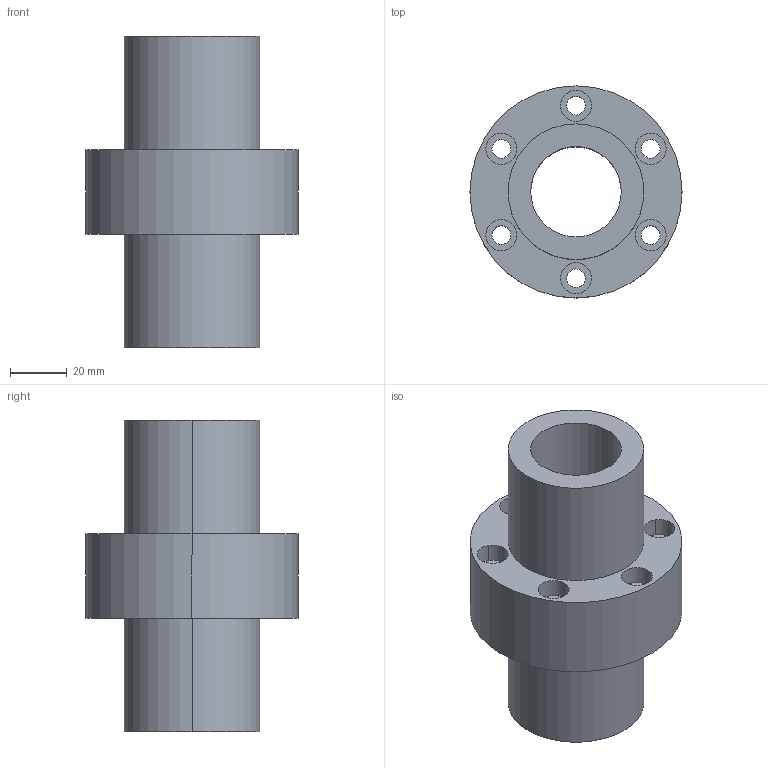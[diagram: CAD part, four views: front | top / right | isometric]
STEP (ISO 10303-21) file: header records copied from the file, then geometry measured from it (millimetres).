
FILE_DESCRIPTION((''),'2;1');
FILE_NAME('32-5T4','2008-04-03T',('yanyu'),(''),'PRO/ENGINEER BY PARAMETRIC TECHNOLOGY CORPORATION, 2005070','PRO/ENGINEER BY PARAMETRIC TECHNOLOGY CORPORATION, 2005070','');
FILE_SCHEMA(('CONFIG_CONTROL_DESIGN'));
Length unit declared in the file: millimetre
Products named in the file (1): 32-5T4
Bounding box: 75 x 75 x 110 mm (x, y, z)
Volume: 180303.1 mm3; surface area: 41278.7 mm2
Topology: 1 solids, 1 shells, 42 faces, 100 edges, 68 vertices
Faces by surface type: cylinder 32, plane 10
Entity records: 1330 total; most frequent: DIRECTION 252, CARTESIAN_POINT 210, ORIENTED_EDGE 200, AXIS2_PLACEMENT_3D 110, EDGE_CURVE 100, VERTEX_POINT 68, CIRCLE 68, EDGE_LOOP 64
